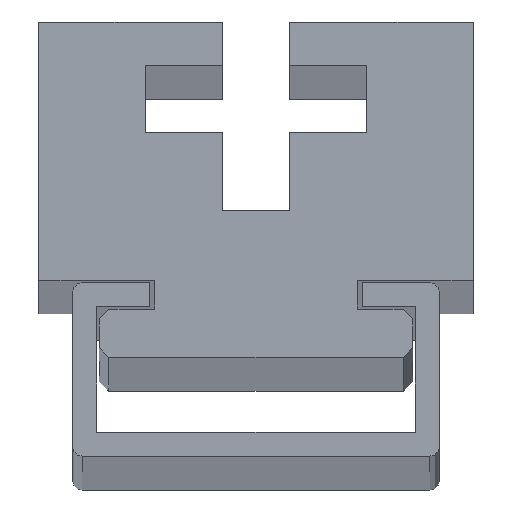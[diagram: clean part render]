
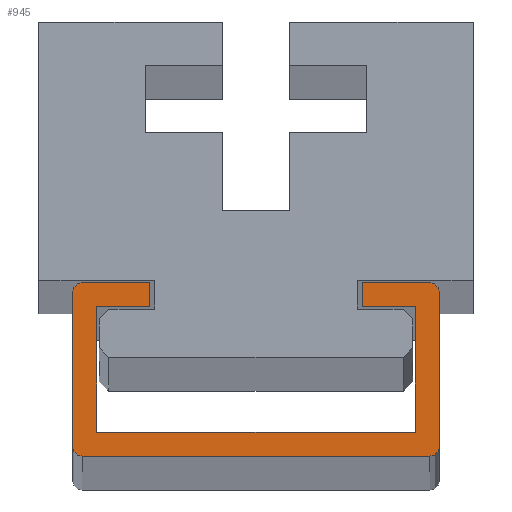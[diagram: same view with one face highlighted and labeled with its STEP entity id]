
A CAD part, top view. The second image highlights one B-rep face of the part: STEP entity #945.
In plain terms, the highlighted planar face has unit normal (0, 0, 1).
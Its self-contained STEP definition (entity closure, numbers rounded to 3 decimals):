
#21 = VECTOR ( 'NONE', #1497, 1000. ) ;
#27 = CARTESIAN_POINT ( 'NONE',  ( 18., 1., 0. ) ) ;
#41 = CARTESIAN_POINT ( 'NONE',  ( -16.5, 15.5, 0. ) ) ;
#85 = CARTESIAN_POINT ( 'NONE',  ( -19., 1., 0. ) ) ;
#90 = VECTOR ( 'NONE', #1790, 1000. ) ;
#108 = CARTESIAN_POINT ( 'NONE',  ( -19., 17., 0. ) ) ;
#110 = EDGE_CURVE ( 'NONE', #146, #1122, #1228, .T. ) ;
#111 = VERTEX_POINT ( 'NONE', #444 ) ;
#131 = CARTESIAN_POINT ( 'NONE',  ( -18., 17., 0. ) ) ;
#146 = VERTEX_POINT ( 'NONE', #179 ) ;
#153 = LINE ( 'NONE', #1502, #417 ) ;
#158 = CARTESIAN_POINT ( 'NONE',  ( 19., 1., 0. ) ) ;
#164 = EDGE_LOOP ( 'NONE', ( #1702, #697, #1032, #225, #601, #1372, #1445, #610, #716, #1895, #851, #1907, #1153, #1460, #406, #378 ) ) ;
#179 = CARTESIAN_POINT ( 'NONE',  ( -18., 18., 0. ) ) ;
#199 = DIRECTION ( 'NONE',  ( 1., 0., 0. ) ) ;
#204 = DIRECTION ( 'NONE',  ( 0., 0., 1. ) ) ;
#218 = VECTOR ( 'NONE', #1265, 1000. ) ;
#225 = ORIENTED_EDGE ( 'NONE', *, *, #1212, .T. ) ;
#236 = CARTESIAN_POINT ( 'NONE',  ( 18., 18., 0. ) ) ;
#244 = EDGE_CURVE ( 'NONE', #1178, #395, #941, .T. ) ;
#260 = LINE ( 'NONE', #1429, #1352 ) ;
#271 = CARTESIAN_POINT ( 'NONE',  ( 11., 18., 0. ) ) ;
#273 = VERTEX_POINT ( 'NONE', #690 ) ;
#372 = DIRECTION ( 'NONE',  ( 0., 0., 1. ) ) ;
#378 = ORIENTED_EDGE ( 'NONE', *, *, #1038, .T. ) ;
#379 = VERTEX_POINT ( 'NONE', #1801 ) ;
#383 = AXIS2_PLACEMENT_3D ( 'NONE', #27, #204, #477 ) ;
#392 = VERTEX_POINT ( 'NONE', #1501 ) ;
#395 = VERTEX_POINT ( 'NONE', #760 ) ;
#406 = ORIENTED_EDGE ( 'NONE', *, *, #1678, .T. ) ;
#411 = EDGE_CURVE ( 'NONE', #1023, #1909, #792, .T. ) ;
#417 = VECTOR ( 'NONE', #1769, 1000. ) ;
#434 = VERTEX_POINT ( 'NONE', #763 ) ;
#438 = DIRECTION ( 'NONE',  ( -1., 0., 0. ) ) ;
#444 = CARTESIAN_POINT ( 'NONE',  ( -19., 1., 0. ) ) ;
#459 = VECTOR ( 'NONE', #1580, 1000. ) ;
#460 = PLANE ( 'NONE',  #1496 ) ;
#477 = DIRECTION ( 'NONE',  ( 1., 0., 0. ) ) ;
#505 = EDGE_CURVE ( 'NONE', #527, #870, #260, .T. ) ;
#527 = VERTEX_POINT ( 'NONE', #1271 ) ;
#529 = LINE ( 'NONE', #1559, #1262 ) ;
#576 = DIRECTION ( 'NONE',  ( 0., 0., 1. ) ) ;
#593 = VERTEX_POINT ( 'NONE', #41 ) ;
#598 = LINE ( 'NONE', #1779, #90 ) ;
#599 = VECTOR ( 'NONE', #907, 1000. ) ;
#600 = DIRECTION ( 'NONE',  ( 0., 0., 1. ) ) ;
#601 = ORIENTED_EDGE ( 'NONE', *, *, #863, .T. ) ;
#610 = ORIENTED_EDGE ( 'NONE', *, *, #1753, .T. ) ;
#633 = VECTOR ( 'NONE', #953, 1000. ) ;
#673 = AXIS2_PLACEMENT_3D ( 'NONE', #1205, #1803, #750 ) ;
#682 = DIRECTION ( 'NONE',  ( 0., 1., 0. ) ) ;
#690 = CARTESIAN_POINT ( 'NONE',  ( 19., 17., 0. ) ) ;
#697 = ORIENTED_EDGE ( 'NONE', *, *, #747, .T. ) ;
#716 = ORIENTED_EDGE ( 'NONE', *, *, #1604, .T. ) ;
#738 = CARTESIAN_POINT ( 'NONE',  ( 18., 17., 0. ) ) ;
#747 = EDGE_CURVE ( 'NONE', #870, #146, #1743, .T. ) ;
#750 = DIRECTION ( 'NONE',  ( 1., 0., 0. ) ) ;
#760 = CARTESIAN_POINT ( 'NONE',  ( 16.5, 15.5, 0. ) ) ;
#763 = CARTESIAN_POINT ( 'NONE',  ( 11., 18., 0. ) ) ;
#792 = CIRCLE ( 'NONE', #383, 1. ) ;
#807 = CARTESIAN_POINT ( 'NONE',  ( 16.5, 2.5, 0. ) ) ;
#851 = ORIENTED_EDGE ( 'NONE', *, *, #1466, .T. ) ;
#863 = EDGE_CURVE ( 'NONE', #111, #392, #1518, .T. ) ;
#870 = VERTEX_POINT ( 'NONE', #1646 ) ;
#898 = DIRECTION ( 'NONE',  ( 1., 0., 0. ) ) ;
#905 = VECTOR ( 'NONE', #199, 1000. ) ;
#907 = DIRECTION ( 'NONE',  ( 0., 1., 0. ) ) ;
#916 = EDGE_CURVE ( 'NONE', #392, #1023, #153, .T. ) ;
#918 = LINE ( 'NONE', #1758, #21 ) ;
#931 = LINE ( 'NONE', #1680, #633 ) ;
#938 = CARTESIAN_POINT ( 'NONE',  ( 18., 17., 0. ) ) ;
#941 = LINE ( 'NONE', #1813, #905 ) ;
#945 = ADVANCED_FACE ( 'NONE', ( #1354 ), #460, .T. ) ;
#953 = DIRECTION ( 'NONE',  ( -1., 0., 0. ) ) ;
#969 = CARTESIAN_POINT ( 'NONE',  ( 18., 0., 0. ) ) ;
#997 = DIRECTION ( 'NONE',  ( 0., 1., 0. ) ) ;
#999 = VERTEX_POINT ( 'NONE', #807 ) ;
#1002 = CARTESIAN_POINT ( 'NONE',  ( -18., 18., 0. ) ) ;
#1023 = VERTEX_POINT ( 'NONE', #969 ) ;
#1032 = ORIENTED_EDGE ( 'NONE', *, *, #110, .T. ) ;
#1038 = EDGE_CURVE ( 'NONE', #593, #527, #1112, .T. ) ;
#1072 = VECTOR ( 'NONE', #1554, 1000. ) ;
#1112 = LINE ( 'NONE', #1695, #1072 ) ;
#1122 = VERTEX_POINT ( 'NONE', #108 ) ;
#1153 = ORIENTED_EDGE ( 'NONE', *, *, #1177, .T. ) ;
#1177 = EDGE_CURVE ( 'NONE', #395, #999, #598, .T. ) ;
#1178 = VERTEX_POINT ( 'NONE', #1341 ) ;
#1181 = EDGE_CURVE ( 'NONE', #999, #379, #918, .T. ) ;
#1205 = CARTESIAN_POINT ( 'NONE',  ( -18., 1., 0. ) ) ;
#1212 = EDGE_CURVE ( 'NONE', #1122, #111, #1384, .T. ) ;
#1228 = CIRCLE ( 'NONE', #1485, 1. ) ;
#1233 = AXIS2_PLACEMENT_3D ( 'NONE', #938, #372, #1825 ) ;
#1262 = VECTOR ( 'NONE', #682, 1000. ) ;
#1265 = DIRECTION ( 'NONE',  ( 0., -1., 0. ) ) ;
#1271 = CARTESIAN_POINT ( 'NONE',  ( -11., 15.5, 0. ) ) ;
#1307 = VERTEX_POINT ( 'NONE', #236 ) ;
#1341 = CARTESIAN_POINT ( 'NONE',  ( 11., 15.5, 0. ) ) ;
#1352 = VECTOR ( 'NONE', #997, 1000. ) ;
#1354 = FACE_OUTER_BOUND ( 'NONE', #164, .T. ) ;
#1372 = ORIENTED_EDGE ( 'NONE', *, *, #916, .T. ) ;
#1373 = CARTESIAN_POINT ( 'NONE',  ( -16.5, 2.5, 0. ) ) ;
#1384 = LINE ( 'NONE', #85, #218 ) ;
#1429 = CARTESIAN_POINT ( 'NONE',  ( -11., 18., 0. ) ) ;
#1445 = ORIENTED_EDGE ( 'NONE', *, *, #411, .T. ) ;
#1460 = ORIENTED_EDGE ( 'NONE', *, *, #1181, .T. ) ;
#1466 = EDGE_CURVE ( 'NONE', #434, #1178, #1721, .T. ) ;
#1485 = AXIS2_PLACEMENT_3D ( 'NONE', #131, #576, #1747 ) ;
#1496 = AXIS2_PLACEMENT_3D ( 'NONE', #738, #600, #898 ) ;
#1497 = DIRECTION ( 'NONE',  ( -1., 0., 0. ) ) ;
#1501 = CARTESIAN_POINT ( 'NONE',  ( -18., 0., 0. ) ) ;
#1502 = CARTESIAN_POINT ( 'NONE',  ( 18., 0., 0. ) ) ;
#1518 = CIRCLE ( 'NONE', #673, 1. ) ;
#1554 = DIRECTION ( 'NONE',  ( 1., 0., 0. ) ) ;
#1559 = CARTESIAN_POINT ( 'NONE',  ( 19., 1., 0. ) ) ;
#1580 = DIRECTION ( 'NONE',  ( 0., -1., 0. ) ) ;
#1590 = CIRCLE ( 'NONE', #1233, 1. ) ;
#1603 = VECTOR ( 'NONE', #438, 1000. ) ;
#1604 = EDGE_CURVE ( 'NONE', #273, #1307, #1590, .T. ) ;
#1627 = EDGE_CURVE ( 'NONE', #1307, #434, #931, .T. ) ;
#1646 = CARTESIAN_POINT ( 'NONE',  ( -11., 18., 0. ) ) ;
#1678 = EDGE_CURVE ( 'NONE', #379, #593, #1799, .T. ) ;
#1680 = CARTESIAN_POINT ( 'NONE',  ( 18., 18., 0. ) ) ;
#1695 = CARTESIAN_POINT ( 'NONE',  ( -16.5, 15.5, 0. ) ) ;
#1702 = ORIENTED_EDGE ( 'NONE', *, *, #505, .T. ) ;
#1721 = LINE ( 'NONE', #271, #459 ) ;
#1743 = LINE ( 'NONE', #1002, #1603 ) ;
#1747 = DIRECTION ( 'NONE',  ( 1., 0., 0. ) ) ;
#1753 = EDGE_CURVE ( 'NONE', #1909, #273, #529, .T. ) ;
#1758 = CARTESIAN_POINT ( 'NONE',  ( 16.5, 2.5, 0. ) ) ;
#1769 = DIRECTION ( 'NONE',  ( 1., 0., 0. ) ) ;
#1779 = CARTESIAN_POINT ( 'NONE',  ( 16.5, 2.5, 0. ) ) ;
#1790 = DIRECTION ( 'NONE',  ( 0., -1., 0. ) ) ;
#1799 = LINE ( 'NONE', #1373, #599 ) ;
#1801 = CARTESIAN_POINT ( 'NONE',  ( -16.5, 2.5, 0. ) ) ;
#1803 = DIRECTION ( 'NONE',  ( 0., 0., 1. ) ) ;
#1813 = CARTESIAN_POINT ( 'NONE',  ( 16.5, 15.5, 0. ) ) ;
#1825 = DIRECTION ( 'NONE',  ( 1., 0., 0. ) ) ;
#1895 = ORIENTED_EDGE ( 'NONE', *, *, #1627, .T. ) ;
#1907 = ORIENTED_EDGE ( 'NONE', *, *, #244, .T. ) ;
#1909 = VERTEX_POINT ( 'NONE', #158 ) ;
